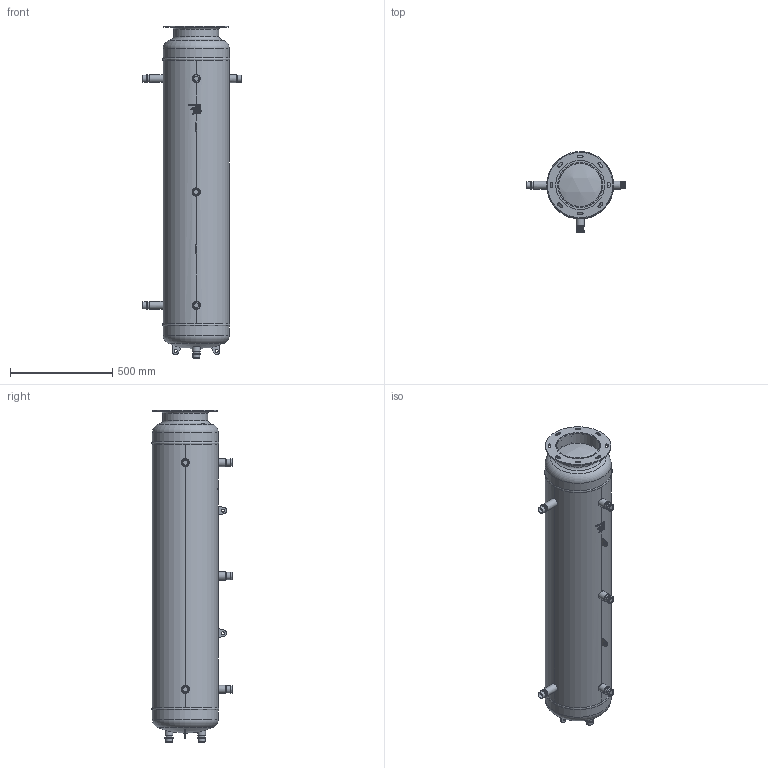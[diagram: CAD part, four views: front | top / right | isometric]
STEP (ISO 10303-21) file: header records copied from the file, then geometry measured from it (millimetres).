
FILE_DESCRIPTION(/* description */ (''),/* implementation_level */ '2;1');
FILE_NAME(/* name */ 'P:\SGS\SGS-106-PS90-V1\SGS-106-PS90-V1.stp',/* time_stamp */ '2019-08-21T13:02:12+02:00',/* author */ ('neufeld'),/* organization */ (''),/* preprocessor_version */ 'ST-DEVELOPER v17',/* originating_system */ 'Autodesk Inventor 2019',/* authorisation */ '');
FILE_SCHEMA (('AUTOMOTIVE_DESIGN { 1 0 10303 214 3 1 1 }'));
Length unit declared in the file: millimetre
Products named in the file (1): SGS-106-PS90-V1_AG-Kunde
Bounding box: 482.9 x 393.55 x 1624.98 mm (x, y, z)
Volume: 124090794.9 mm3; surface area: 1949950.9 mm2
Topology: 3 solids, 9 shells, 1494 faces, 4058 edges, 2732 vertices
Faces by surface type: plane 698, bspline 478, cylinder 252, cone 46, torus 15, sphere 5
Full cylindrical faces by diameter (mm): 15 x4, 22.1 x3, 23.1 x4, 24 x3, 24.5 x2, 25.2 x4, 26.5 x5, 26.9 x4, 28 x6, 28.7 x8, 28.9 x4, 32.1 x4, 33.7 x8, 35 x4, 38 x4, 40 x8, 210.1 x1, 219.1 x2, 220.5 x1, 320 x1, 323.9 x2
Entity records: 64864 total; most frequent: CARTESIAN_POINT 28805, ORIENTED_EDGE 8104, DIRECTION 6317, EDGE_CURVE 4052, VERTEX_POINT 2722, AXIS2_PLACEMENT_3D 2281, LINE 1755, VECTOR 1755
